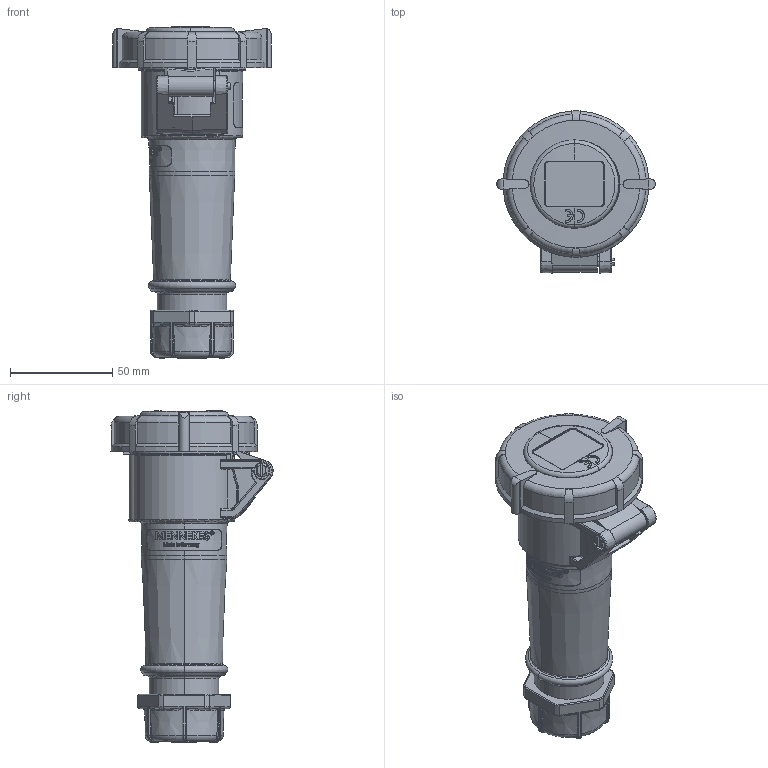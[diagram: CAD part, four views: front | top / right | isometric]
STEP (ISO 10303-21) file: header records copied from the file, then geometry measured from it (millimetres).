
FILE_DESCRIPTION((''),'2;1');
FILE_NAME('541','2018-06-20T',('kremer'),('MENNEKES'),'PRO/ENGINEER BY PARAMETRIC TECHNOLOGY CORPORATION, 2015440','PRO/ENGINEER BY PARAMETRIC TECHNOLOGY CORPORATION, 2015440','');
FILE_SCHEMA(('AUTOMOTIVE_DESIGN { 1 0 10303 214 1 1 1 1 }'));
Products named in the file (1): 541
Bounding box: 77.55 x 79.31 x 162.37 mm (x, y, z)
Volume: 271819.2 mm3; surface area: 36912.4 mm2
Topology: 1 solids, 1 shells, 1605 faces, 4521 edges, 2952 vertices
Faces by surface type: plane 820, extrusion 242, cylinder 224, torus 122, cone 93, bspline 92, sphere 11, revolution 1
Entity records: 75367 total; most frequent: CARTESIAN_POINT 19363, ORIENTED_EDGE 9022, DIRECTION 6890, EDGE_CURVE 4511, VERTEX_POINT 2952, VECTOR 2515, FILL_AREA_STYLE_COLOUR 2460, FILL_AREA_STYLE 2460
